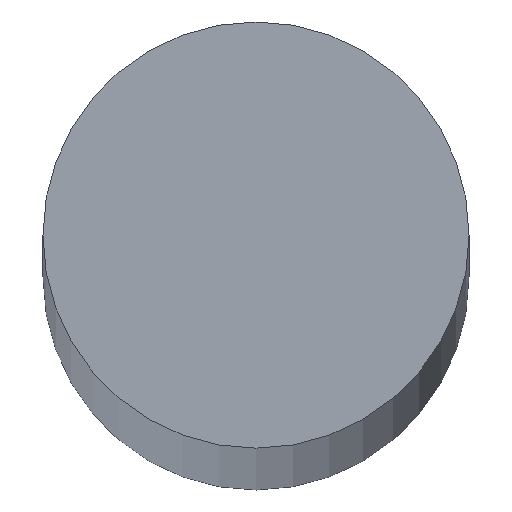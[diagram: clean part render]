
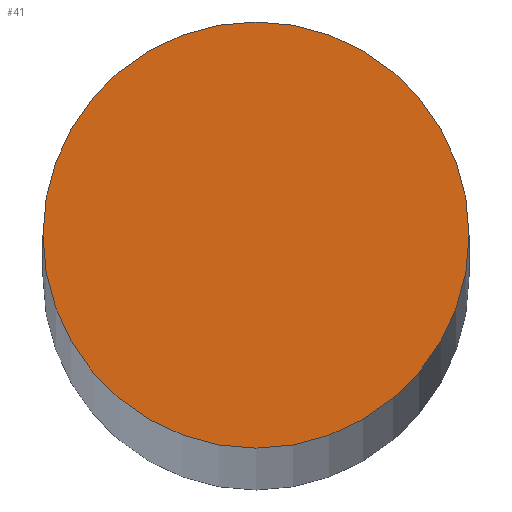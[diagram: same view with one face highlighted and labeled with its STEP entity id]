
A CAD part, top view. The second image highlights one B-rep face of the part: STEP entity #41.
In plain terms, the highlighted planar face has unit normal (0, 0, 1).
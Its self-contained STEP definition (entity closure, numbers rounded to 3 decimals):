
#16=PLANE('',#66);
#19=FACE_OUTER_BOUND('',#22,.T.);
#22=EDGE_LOOP('',(#37));
#25=CIRCLE('',#63,8.);
#27=VERTEX_POINT('',#82);
#29=EDGE_CURVE('',#27,#27,#25,.T.);
#37=ORIENTED_EDGE('',*,*,#29,.T.);
#41=ADVANCED_FACE('',(#19),#16,.T.);
#63=AXIS2_PLACEMENT_3D('',#83,#71,#72);
#66=AXIS2_PLACEMENT_3D('',#88,#78,#79);
#71=DIRECTION('center_axis',(0.,0.,1.));
#72=DIRECTION('ref_axis',(-1.,0.,0.));
#78=DIRECTION('center_axis',(0.,0.,1.));
#79=DIRECTION('ref_axis',(1.,0.,0.));
#82=CARTESIAN_POINT('',(8.,0.,900.));
#83=CARTESIAN_POINT('Origin',(0.,0.,900.));
#88=CARTESIAN_POINT('Origin',(0.,0.,
900.));
